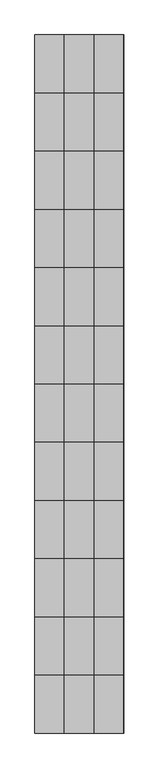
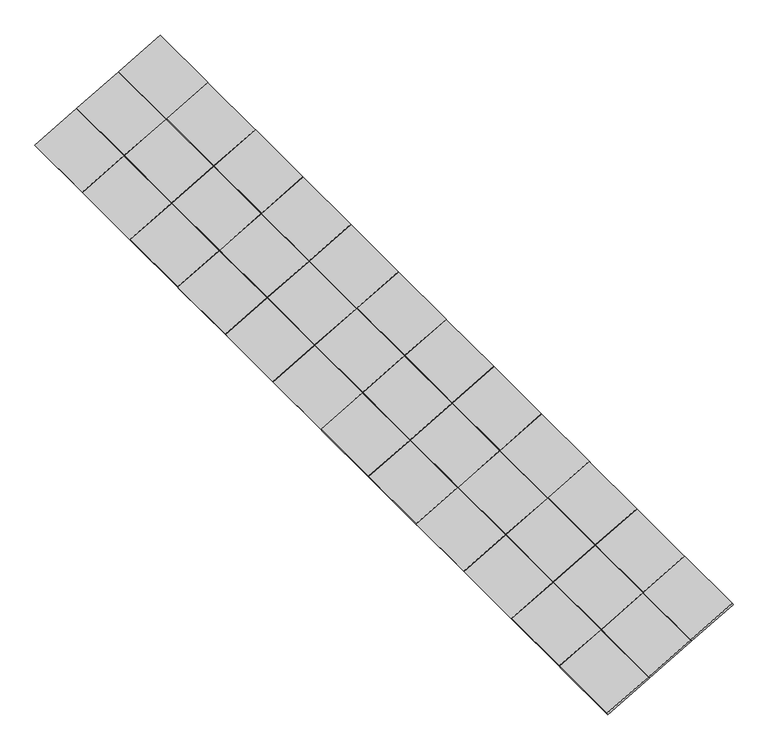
"""IFC4 building model written with IfcOpenShell, lengths in millimetres: proxy geometry, 50702_太陽光発電装置 : 太陽電池アレイ."""

from ifc_helpers import new_model, si_unit, frame, origin, place, context, project, spatial, polyline, outline, extrude, source, transform, mapped, element, save


def electrical_equipment_0ac44569(model_context):
    return source(origin(), model_context, "Body", "SweptSolid", [
        extrude(outline(polyline([(1049.9999999, 0.0), (1049.9999999, -1800.0), (0.0, -1800.0), (0.0, 0.0), (1049.9999999, 0.0)])), frame((1844.6341101, 20865.0, 1065.0), z_axis=(-0.4999999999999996, 0.0, 0.8660254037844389), x_axis=(0.8660254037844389, 0.0, 0.4999999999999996)), (0.0, 0.0, 1.0), 40.0),
        extrude(outline(polyline([(1050.0, 0.0), (1050.0, -1800.0), (0.0, -1800.0), (0.0, 0.0), (1050.0, 0.0)])), frame((922.317055, 20865.0, 532.5), z_axis=(-0.4999999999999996, 0.0, 0.8660254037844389), x_axis=(0.8660254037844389, 0.0, 0.4999999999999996)), (0.0, 0.0, 1.0), 40.0),
        extrude(outline(polyline([(1050.0, 0.0), (1050.0, -1800.0), (0.0, -1800.0), (0.0, 0.0), (1050.0, 0.0)])), frame((0.0, 20865.0, 0.0), z_axis=(-0.4999999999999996, 0.0, 0.8660254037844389), x_axis=(0.8660254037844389, 0.0, 0.4999999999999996)), (0.0, 0.0, 1.0), 40.0),
        extrude(outline(polyline([(1049.9999999, 0.0), (1049.9999999, -1800.0), (0.0, -1800.0), (0.0, 0.0), (1049.9999999, 0.0)])), frame((1844.6341101, 19050.0, 1065.0), z_axis=(-0.4999999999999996, 0.0, 0.8660254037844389), x_axis=(0.8660254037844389, 0.0, 0.4999999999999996)), (0.0, 0.0, 1.0), 40.0),
        extrude(outline(polyline([(1050.0, 0.0), (1050.0, -1800.0), (0.0, -1800.0), (0.0, 0.0), (1050.0, 0.0)])), frame((922.317055, 19050.0, 532.5), z_axis=(-0.4999999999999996, 0.0, 0.8660254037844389), x_axis=(0.8660254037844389, 0.0, 0.4999999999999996)), (0.0, 0.0, 1.0), 40.0),
        extrude(outline(polyline([(1050.0, 0.0), (1050.0, -1800.0), (0.0, -1800.0), (0.0, 0.0), (1050.0, 0.0)])), frame((0.0, 19050.0, 0.0), z_axis=(-0.4999999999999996, 0.0, 0.8660254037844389), x_axis=(0.8660254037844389, 0.0, 0.4999999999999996)), (0.0, 0.0, 1.0), 40.0),
        extrude(outline(polyline([(1049.9999999, 0.0), (1049.9999999, -1800.0), (0.0, -1800.0), (0.0, 0.0), (1049.9999999, 0.0)])), frame((1844.6341101, 17235.0, 1065.0), z_axis=(-0.4999999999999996, 0.0, 0.8660254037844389), x_axis=(0.8660254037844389, 0.0, 0.4999999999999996)), (0.0, 0.0, 1.0), 40.0),
        extrude(outline(polyline([(1050.0, 0.0), (1050.0, -1800.0), (0.0, -1800.0), (0.0, 0.0), (1050.0, 0.0)])), frame((922.317055, 17235.0, 532.5), z_axis=(-0.4999999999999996, 0.0, 0.8660254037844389), x_axis=(0.8660254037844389, 0.0, 0.4999999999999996)), (0.0, 0.0, 1.0), 40.0),
        extrude(outline(polyline([(1050.0, 0.0), (1050.0, -1800.0), (0.0, -1800.0), (0.0, 0.0), (1050.0, 0.0)])), frame((0.0, 17235.0, 0.0), z_axis=(-0.4999999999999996, 0.0, 0.8660254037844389), x_axis=(0.8660254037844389, 0.0, 0.4999999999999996)), (0.0, 0.0, 1.0), 40.0),
        extrude(outline(polyline([(1049.9999999, 0.0), (1049.9999999, -1800.0), (0.0, -1800.0), (0.0, 0.0), (1049.9999999, 0.0)])), frame((1844.6341101, 15420.0, 1065.0), z_axis=(-0.4999999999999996, 0.0, 0.8660254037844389), x_axis=(0.8660254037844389, 0.0, 0.4999999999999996)), (0.0, 0.0, 1.0), 40.0),
        extrude(outline(polyline([(1050.0, 0.0), (1050.0, -1800.0), (0.0, -1800.0), (0.0, 0.0), (1050.0, 0.0)])), frame((922.317055, 15420.0, 532.5), z_axis=(-0.4999999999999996, 0.0, 0.8660254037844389), x_axis=(0.8660254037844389, 0.0, 0.4999999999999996)), (0.0, 0.0, 1.0), 40.0),
        extrude(outline(polyline([(1050.0, 0.0), (1050.0, -1800.0), (0.0, -1800.0), (0.0, 0.0), (1050.0, 0.0)])), frame((0.0, 15420.0, 0.0), z_axis=(-0.4999999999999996, 0.0, 0.8660254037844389), x_axis=(0.8660254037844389, 0.0, 0.4999999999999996)), (0.0, 0.0, 1.0), 40.0),
        extrude(outline(polyline([(1049.9999999, 0.0), (1049.9999999, -1800.0), (0.0, -1800.0), (0.0, 0.0), (1049.9999999, 0.0)])), frame((1844.6341101, 13605.0, 1065.0), z_axis=(-0.4999999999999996, 0.0, 0.8660254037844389), x_axis=(0.8660254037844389, 0.0, 0.4999999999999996)), (0.0, 0.0, 1.0), 40.0),
        extrude(outline(polyline([(1050.0, 0.0), (1050.0, -1800.0), (0.0, -1800.0), (0.0, 0.0), (1050.0, 0.0)])), frame((922.317055, 13605.0, 532.5), z_axis=(-0.4999999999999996, 0.0, 0.8660254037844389), x_axis=(0.8660254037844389, 0.0, 0.4999999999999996)), (0.0, 0.0, 1.0), 40.0),
        extrude(outline(polyline([(1050.0, 0.0), (1050.0, -1800.0), (0.0, -1800.0), (0.0, 0.0), (1050.0, 0.0)])), frame((0.0, 13605.0, 0.0), z_axis=(-0.4999999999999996, 0.0, 0.8660254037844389), x_axis=(0.8660254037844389, 0.0, 0.4999999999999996)), (0.0, 0.0, 1.0), 40.0),
        extrude(outline(polyline([(1049.9999999, 0.0), (1049.9999999, -1800.0), (0.0, -1800.0), (0.0, 0.0), (1049.9999999, 0.0)])), frame((1844.6341101, 11790.0, 1065.0), z_axis=(-0.4999999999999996, 0.0, 0.8660254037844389), x_axis=(0.8660254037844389, 0.0, 0.4999999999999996)), (0.0, 0.0, 1.0), 40.0),
        extrude(outline(polyline([(1050.0, 0.0), (1050.0, -1800.0), (0.0, -1800.0), (0.0, 0.0), (1050.0, 0.0)])), frame((922.317055, 11790.0, 532.5), z_axis=(-0.4999999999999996, 0.0, 0.8660254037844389), x_axis=(0.8660254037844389, 0.0, 0.4999999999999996)), (0.0, 0.0, 1.0), 40.0),
        extrude(outline(polyline([(1050.0, 0.0), (1050.0, -1800.0), (0.0, -1800.0), (0.0, 0.0), (1050.0, 0.0)])), frame((0.0, 11790.0, 0.0), z_axis=(-0.4999999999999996, 0.0, 0.8660254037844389), x_axis=(0.8660254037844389, 0.0, 0.4999999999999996)), (0.0, 0.0, 1.0), 40.0),
        extrude(outline(polyline([(1049.9999999, 0.0), (1049.9999999, -1800.0), (0.0, -1800.0), (0.0, 0.0), (1049.9999999, 0.0)])), frame((1844.6341101, 9975.0, 1065.0), z_axis=(-0.4999999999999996, 0.0, 0.8660254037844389), x_axis=(0.8660254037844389, 0.0, 0.4999999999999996)), (0.0, 0.0, 1.0), 40.0),
        extrude(outline(polyline([(1050.0, 0.0), (1050.0, -1800.0), (0.0, -1800.0), (0.0, 0.0), (1050.0, 0.0)])), frame((922.317055, 9975.0, 532.5), z_axis=(-0.4999999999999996, 0.0, 0.8660254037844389), x_axis=(0.8660254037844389, 0.0, 0.4999999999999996)), (0.0, 0.0, 1.0), 40.0),
        extrude(outline(polyline([(1050.0, 0.0), (1050.0, -1800.0), (0.0, -1800.0), (0.0, 0.0), (1050.0, 0.0)])), frame((0.0, 9975.0, 0.0), z_axis=(-0.4999999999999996, 0.0, 0.8660254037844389), x_axis=(0.8660254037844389, 0.0, 0.4999999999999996)), (0.0, 0.0, 1.0), 40.0),
        extrude(outline(polyline([(1049.9999999, 0.0), (1049.9999999, -1800.0), (0.0, -1800.0), (0.0, 0.0), (1049.9999999, 0.0)])), frame((1844.6341101, 8160.0, 1065.0), z_axis=(-0.4999999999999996, 0.0, 0.8660254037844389), x_axis=(0.8660254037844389, 0.0, 0.4999999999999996)), (0.0, 0.0, 1.0), 40.0),
        extrude(outline(polyline([(1050.0, 0.0), (1050.0, -1800.0), (0.0, -1800.0), (0.0, 0.0), (1050.0, 0.0)])), frame((922.317055, 8160.0, 532.5), z_axis=(-0.4999999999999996, 0.0, 0.8660254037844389), x_axis=(0.8660254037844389, 0.0, 0.4999999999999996)), (0.0, 0.0, 1.0), 40.0),
        extrude(outline(polyline([(1050.0, 0.0), (1050.0, -1800.0), (0.0, -1800.0), (0.0, 0.0), (1050.0, 0.0)])), frame((0.0, 8160.0, 0.0), z_axis=(-0.4999999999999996, 0.0, 0.8660254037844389), x_axis=(0.8660254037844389, 0.0, 0.4999999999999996)), (0.0, 0.0, 1.0), 40.0),
        extrude(outline(polyline([(1049.9999999, 0.0), (1049.9999999, -1800.0), (0.0, -1800.0), (0.0, 0.0), (1049.9999999, 0.0)])), frame((1844.6341101, 6345.0, 1065.0), z_axis=(-0.4999999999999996, 0.0, 0.8660254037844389), x_axis=(0.8660254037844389, 0.0, 0.4999999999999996)), (0.0, 0.0, 1.0), 40.0),
        extrude(outline(polyline([(1050.0, 0.0), (1050.0, -1800.0), (0.0, -1800.0), (0.0, 0.0), (1050.0, 0.0)])), frame((922.317055, 6345.0, 532.5), z_axis=(-0.4999999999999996, 0.0, 0.8660254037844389), x_axis=(0.8660254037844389, 0.0, 0.4999999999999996)), (0.0, 0.0, 1.0), 40.0),
        extrude(outline(polyline([(1050.0, 0.0), (1050.0, -1800.0), (0.0, -1800.0), (0.0, 0.0), (1050.0, 0.0)])), frame((0.0, 6345.0, 0.0), z_axis=(-0.4999999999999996, 0.0, 0.8660254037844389), x_axis=(0.8660254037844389, 0.0, 0.4999999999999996)), (0.0, 0.0, 1.0), 40.0),
        extrude(outline(polyline([(1049.9999999, 0.0), (1049.9999999, -1800.0), (0.0, -1800.0), (0.0, 0.0), (1049.9999999, 0.0)])), frame((1844.6341101, 4530.0, 1065.0), z_axis=(-0.4999999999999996, 0.0, 0.8660254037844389), x_axis=(0.8660254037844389, 0.0, 0.4999999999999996)), (0.0, 0.0, 1.0), 40.0),
        extrude(outline(polyline([(1050.0, 0.0), (1050.0, -1800.0), (0.0, -1800.0), (0.0, 0.0), (1050.0, 0.0)])), frame((922.317055, 4530.0, 532.5), z_axis=(-0.4999999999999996, 0.0, 0.8660254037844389), x_axis=(0.8660254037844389, 0.0, 0.4999999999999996)), (0.0, 0.0, 1.0), 40.0),
        extrude(outline(polyline([(1050.0, 0.0), (1050.0, -1800.0), (0.0, -1800.0), (0.0, 0.0), (1050.0, 0.0)])), frame((0.0, 4530.0, 0.0), z_axis=(-0.4999999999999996, 0.0, 0.8660254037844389), x_axis=(0.8660254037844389, 0.0, 0.4999999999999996)), (0.0, 0.0, 1.0), 40.0),
        extrude(outline(polyline([(1049.9999999, 0.0), (1049.9999999, -1800.0), (0.0, -1800.0), (0.0, 0.0), (1049.9999999, 0.0)])), frame((1844.6341101, 2715.0, 1065.0), z_axis=(-0.4999999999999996, 0.0, 0.8660254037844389), x_axis=(0.8660254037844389, 0.0, 0.4999999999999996)), (0.0, 0.0, 1.0), 40.0),
        extrude(outline(polyline([(1050.0, 0.0), (1050.0, -1800.0), (0.0, -1800.0), (0.0, 0.0), (1050.0, 0.0)])), frame((922.317055, 2715.0, 532.5), z_axis=(-0.4999999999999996, 0.0, 0.8660254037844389), x_axis=(0.8660254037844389, 0.0, 0.4999999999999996)), (0.0, 0.0, 1.0), 40.0),
        extrude(outline(polyline([(1050.0, 0.0), (1050.0, -1800.0), (0.0, -1800.0), (0.0, 0.0), (1050.0, 0.0)])), frame((0.0, 2715.0, 0.0), z_axis=(-0.4999999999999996, 0.0, 0.8660254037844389), x_axis=(0.8660254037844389, 0.0, 0.4999999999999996)), (0.0, 0.0, 1.0), 40.0),
        extrude(outline(polyline([(1049.9999999, 0.0), (1049.9999999, -1800.0), (0.0, -1800.0), (0.0, 0.0), (1049.9999999, 0.0)])), frame((1844.6341101, 900.0, 1065.0), z_axis=(-0.4999999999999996, 0.0, 0.8660254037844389), x_axis=(0.8660254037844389, 0.0, 0.4999999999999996)), (0.0, 0.0, 1.0), 40.0),
        extrude(outline(polyline([(1050.0, 0.0), (1050.0, -1800.0), (0.0, -1800.0), (0.0, 0.0), (1050.0, 0.0)])), frame((922.317055, 900.0, 532.5), z_axis=(-0.4999999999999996, 0.0, 0.8660254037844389), x_axis=(0.8660254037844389, 0.0, 0.4999999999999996)), (0.0, 0.0, 1.0), 40.0),
        extrude(outline(polyline([(1050.0, 0.0), (1050.0, -1800.0), (0.0, -1800.0), (0.0, 0.0), (1050.0, 0.0)])), frame((0.0, 900.0, 0.0), z_axis=(-0.4999999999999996, 0.0, 0.8660254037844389), x_axis=(0.8660254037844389, 0.0, 0.4999999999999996)), (0.0, 0.0, 1.0), 40.0),
    ])


if __name__ == "__main__":
    model = new_model("IFC4")
    model_context = context("Model", 3, world=origin())
    ifc_project = project(units=[si_unit("LENGTHUNIT", "METRE", prefix="MILLI")], contexts=[model_context])
    site = spatial("IfcSite", under=ifc_project)
    building = spatial("IfcBuilding", under=site)
    placement = place(None, origin())
    electrical_equipment_shape = electrical_equipment_0ac44569(model_context)
    element("IfcBuildingElementProxy", 1, Name="50702_太陽光発電装置 : 太陽電池アレイ", ObjectType="50702_太陽光発電装置 : 太陽電池アレイ", at=placement, inside=building, context=model_context, shape_type="MappedRepresentation", body=[
        mapped(electrical_equipment_shape, transform((0.0, 0.0, 0.0), x_axis=(1.0, 0.0, 0.0), y_axis=(0.0, 1.0, 0.0), z_axis=(0.0, 0.0, 1.0))),
    ])
    save(model, "model.ifc")
